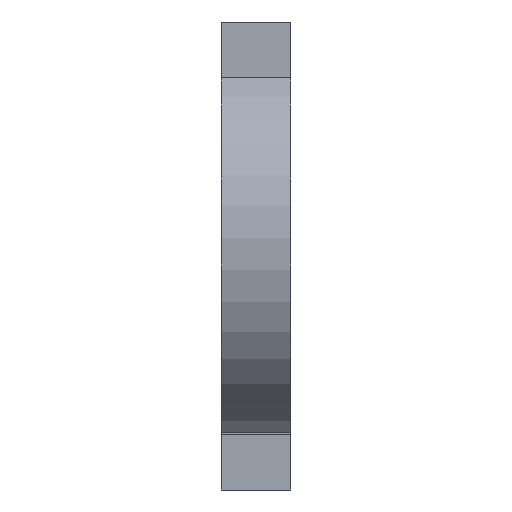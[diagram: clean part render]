
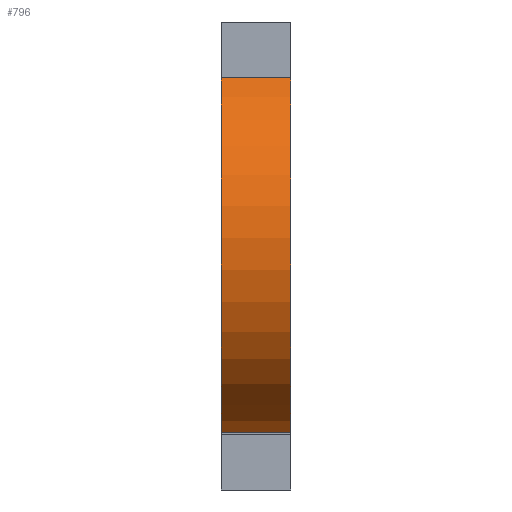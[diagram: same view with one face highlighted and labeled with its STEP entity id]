
A CAD part, left-side view. The second image highlights one B-rep face of the part: STEP entity #796.
In plain terms, the highlighted cylindrical face has radius 28 mm (diameter 56 mm), a partial arc.
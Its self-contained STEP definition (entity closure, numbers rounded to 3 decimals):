
#22 = VERTEX_POINT('',#23);
#23 = CARTESIAN_POINT('',(-14.422,168.,24.));
#44 = PLANE('',#45);
#45 = AXIS2_PLACEMENT_3D('',#46,#47,#48);
#46 = CARTESIAN_POINT('',(0.,168.,0.));
#47 = DIRECTION('',(0.,1.,0.));
#48 = DIRECTION('',(0.,-0.,1.));
#244 = VERTEX_POINT('',#245);
#245 = CARTESIAN_POINT('',(-8.,168.,-26.833));
#271 = EDGE_CURVE('',#244,#22,#272,.T.);
#272 = SURFACE_CURVE('',#273,(#278,#285),.PCURVE_S1.);
#273 = CIRCLE('',#274,28.);
#274 = AXIS2_PLACEMENT_3D('',#275,#276,#277);
#275 = CARTESIAN_POINT('',(0.,168.,0.));
#276 = DIRECTION('',(0.,1.,0.));
#277 = DIRECTION('',(0.,-0.,1.));
#278 = PCURVE('',#44,#279);
#279 = DEFINITIONAL_REPRESENTATION('',(#280),#284);
#280 = CIRCLE('',#281,28.);
#281 = AXIS2_PLACEMENT_2D('',#282,#283);
#282 = CARTESIAN_POINT('',(0.,0.));
#283 = DIRECTION('',(1.,0.));
#284 = ( GEOMETRIC_REPRESENTATION_CONTEXT(2) 
PARAMETRIC_REPRESENTATION_CONTEXT() REPRESENTATION_CONTEXT('2D SPACE',''
  ) );
#285 = PCURVE('',#286,#291);
#286 = CYLINDRICAL_SURFACE('',#287,28.);
#287 = AXIS2_PLACEMENT_3D('',#288,#289,#290);
#288 = CARTESIAN_POINT('',(0.,168.,0.));
#289 = DIRECTION('',(0.,1.,0.));
#290 = DIRECTION('',(0.,-0.,1.));
#291 = DEFINITIONAL_REPRESENTATION('',(#292),#296);
#292 = LINE('',#293,#294);
#293 = CARTESIAN_POINT('',(0.,0.));
#294 = VECTOR('',#295,1.);
#295 = DIRECTION('',(1.,0.));
#296 = ( GEOMETRIC_REPRESENTATION_CONTEXT(2) 
PARAMETRIC_REPRESENTATION_CONTEXT() REPRESENTATION_CONTEXT('2D SPACE',''
  ) );
#531 = PLANE('',#532);
#532 = AXIS2_PLACEMENT_3D('',#533,#534,#535);
#533 = CARTESIAN_POINT('',(-45.,168.,24.));
#534 = DIRECTION('',(0.,0.,1.));
#535 = DIRECTION('',(1.,0.,-0.));
#728 = PLANE('',#729);
#729 = AXIS2_PLACEMENT_3D('',#730,#731,#732);
#730 = CARTESIAN_POINT('',(0.,178.,0.));
#731 = DIRECTION('',(0.,1.,0.));
#732 = DIRECTION('',(0.,-0.,1.));
#796 = ADVANCED_FACE('',(#797),#286,.T.);
#797 = FACE_BOUND('',#798,.T.);
#798 = EDGE_LOOP('',(#799,#820,#844,#868));
#799 = ORIENTED_EDGE('',*,*,#800,.T.);
#800 = EDGE_CURVE('',#22,#801,#803,.T.);
#801 = VERTEX_POINT('',#802);
#802 = CARTESIAN_POINT('',(-14.422,178.,24.));
#803 = SURFACE_CURVE('',#804,(#808,#814),.PCURVE_S1.);
#804 = LINE('',#805,#806);
#805 = CARTESIAN_POINT('',(-14.422,168.,24.));
#806 = VECTOR('',#807,1.);
#807 = DIRECTION('',(0.,1.,0.));
#808 = PCURVE('',#286,#809);
#809 = DEFINITIONAL_REPRESENTATION('',(#810),#813);
#810 = B_SPLINE_CURVE_WITH_KNOTS('',1,(#811,#812),.UNSPECIFIED.,.F.,.F.,
  (2,2),(0.,10.),.PIECEWISE_BEZIER_KNOTS.);
#811 = CARTESIAN_POINT('',(5.742,0.));
#812 = CARTESIAN_POINT('',(5.742,10.));
#813 = ( GEOMETRIC_REPRESENTATION_CONTEXT(2) 
PARAMETRIC_REPRESENTATION_CONTEXT() REPRESENTATION_CONTEXT('2D SPACE',''
  ) );
#814 = PCURVE('',#531,#815);
#815 = DEFINITIONAL_REPRESENTATION('',(#816),#819);
#816 = B_SPLINE_CURVE_WITH_KNOTS('',1,(#817,#818),.UNSPECIFIED.,.F.,.F.,
  (2,2),(0.,10.),.PIECEWISE_BEZIER_KNOTS.);
#817 = CARTESIAN_POINT('',(30.578,0.));
#818 = CARTESIAN_POINT('',(30.578,10.));
#819 = ( GEOMETRIC_REPRESENTATION_CONTEXT(2) 
PARAMETRIC_REPRESENTATION_CONTEXT() REPRESENTATION_CONTEXT('2D SPACE',''
  ) );
#820 = ORIENTED_EDGE('',*,*,#821,.F.);
#821 = EDGE_CURVE('',#822,#801,#824,.T.);
#822 = VERTEX_POINT('',#823);
#823 = CARTESIAN_POINT('',(-8.,178.,-26.833));
#824 = SURFACE_CURVE('',#825,(#830,#837),.PCURVE_S1.);
#825 = CIRCLE('',#826,28.);
#826 = AXIS2_PLACEMENT_3D('',#827,#828,#829);
#827 = CARTESIAN_POINT('',(0.,178.,0.));
#828 = DIRECTION('',(0.,1.,0.));
#829 = DIRECTION('',(0.,-0.,1.));
#830 = PCURVE('',#286,#831);
#831 = DEFINITIONAL_REPRESENTATION('',(#832),#836);
#832 = LINE('',#833,#834);
#833 = CARTESIAN_POINT('',(0.,10.));
#834 = VECTOR('',#835,1.);
#835 = DIRECTION('',(1.,0.));
#836 = ( GEOMETRIC_REPRESENTATION_CONTEXT(2) 
PARAMETRIC_REPRESENTATION_CONTEXT() REPRESENTATION_CONTEXT('2D SPACE',''
  ) );
#837 = PCURVE('',#728,#838);
#838 = DEFINITIONAL_REPRESENTATION('',(#839),#843);
#839 = CIRCLE('',#840,28.);
#840 = AXIS2_PLACEMENT_2D('',#841,#842);
#841 = CARTESIAN_POINT('',(0.,0.));
#842 = DIRECTION('',(1.,0.));
#843 = ( GEOMETRIC_REPRESENTATION_CONTEXT(2) 
PARAMETRIC_REPRESENTATION_CONTEXT() REPRESENTATION_CONTEXT('2D SPACE',''
  ) );
#844 = ORIENTED_EDGE('',*,*,#845,.F.);
#845 = EDGE_CURVE('',#244,#822,#846,.T.);
#846 = SURFACE_CURVE('',#847,(#851,#857),.PCURVE_S1.);
#847 = LINE('',#848,#849);
#848 = CARTESIAN_POINT('',(-8.,168.,-26.833));
#849 = VECTOR('',#850,1.);
#850 = DIRECTION('',(0.,1.,0.));
#851 = PCURVE('',#286,#852);
#852 = DEFINITIONAL_REPRESENTATION('',(#853),#856);
#853 = B_SPLINE_CURVE_WITH_KNOTS('',1,(#854,#855),.UNSPECIFIED.,.F.,.F.,
  (2,2),(0.,10.),.PIECEWISE_BEZIER_KNOTS.);
#854 = CARTESIAN_POINT('',(3.431,0.));
#855 = CARTESIAN_POINT('',(3.431,10.));
#856 = ( GEOMETRIC_REPRESENTATION_CONTEXT(2) 
PARAMETRIC_REPRESENTATION_CONTEXT() REPRESENTATION_CONTEXT('2D SPACE',''
  ) );
#857 = PCURVE('',#858,#863);
#858 = PLANE('',#859);
#859 = AXIS2_PLACEMENT_3D('',#860,#861,#862);
#860 = CARTESIAN_POINT('',(-8.,168.,-28.));
#861 = DIRECTION('',(1.,0.,-0.));
#862 = DIRECTION('',(0.,0.,1.));
#863 = DEFINITIONAL_REPRESENTATION('',(#864),#867);
#864 = B_SPLINE_CURVE_WITH_KNOTS('',1,(#865,#866),.UNSPECIFIED.,.F.,.F.,
  (2,2),(0.,10.),.PIECEWISE_BEZIER_KNOTS.);
#865 = CARTESIAN_POINT('',(1.167,0.));
#866 = CARTESIAN_POINT('',(1.167,-10.));
#867 = ( GEOMETRIC_REPRESENTATION_CONTEXT(2) 
PARAMETRIC_REPRESENTATION_CONTEXT() REPRESENTATION_CONTEXT('2D SPACE',''
  ) );
#868 = ORIENTED_EDGE('',*,*,#271,.T.);
